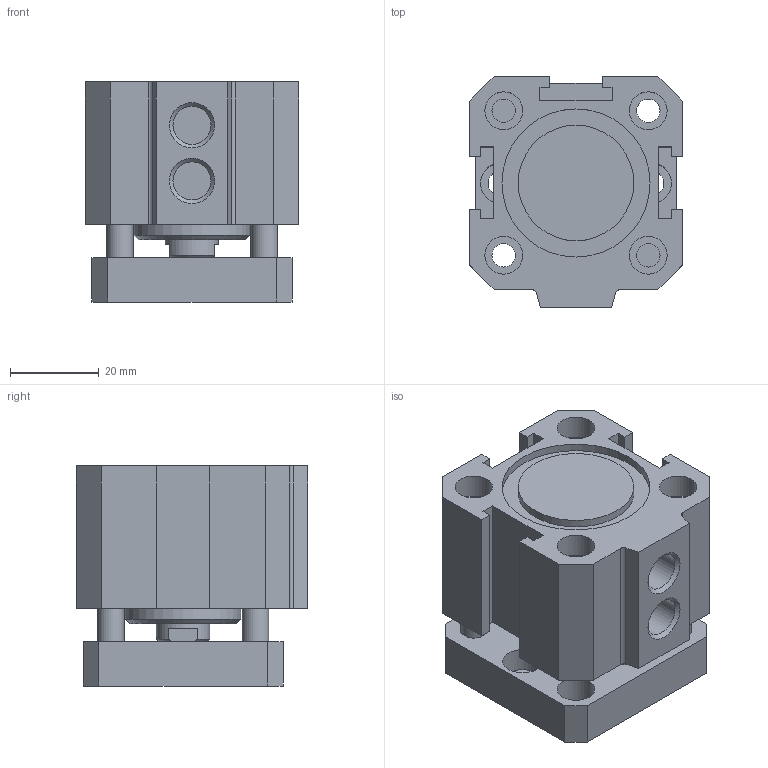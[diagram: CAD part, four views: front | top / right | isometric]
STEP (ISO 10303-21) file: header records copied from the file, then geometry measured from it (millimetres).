
FILE_DESCRIPTION(/* description */ (''),/* implementation_level */ '2;1');
FILE_NAME(/* name */ 'I:\Area Tecnica\Disegni\VARIE-3D\Componenti\1500\Ø32\15##_32_####_#\1501_32_0000_AR.stp',/* time_stamp */ '2016-08-24T11:27:46+02:00',/* author */ ('Maniean1'),/* organization */ ('Pneumax S.p.A.'),/* preprocessor_version */ 'ST-DEVELOPER v15.2',/* originating_system */ 'Autodesk Inventor 2014',/* authorisation */ '');
FILE_SCHEMA (('AUTOMOTIVE_DESIGN { 1 0 10303 214 3 1 1 }'));
Length unit declared in the file: millimetre
Products named in the file (3): C_1501_32_0000_AR; S_1501_32_0000_AR; 1501_32_0000_AR
Bounding box: 48 x 52 x 49.5 mm (x, y, z)
Volume: 81620.9 mm3; surface area: 30079.6 mm2
Topology: 2 solids, 2 shells, 113 faces, 261 edges, 174 vertices
Faces by surface type: plane 74, cylinder 34, cone 5
Full cylindrical faces by diameter (mm): 4.134 x2, 5.3 x4, 5.5 x2, 6 x4, 8.5 x8, 8.566 x2, 9 x2, 12 x2, 26 x2, 32 x2, 33.3 x2
Entity records: 3153 total; most frequent: DIRECTION 530, CARTESIAN_POINT 518, ORIENTED_EDGE 444, EDGE_CURVE 222, AXIS2_PLACEMENT_3D 194, EDGE_LOOP 190, VERTEX_POINT 170, LINE 142
